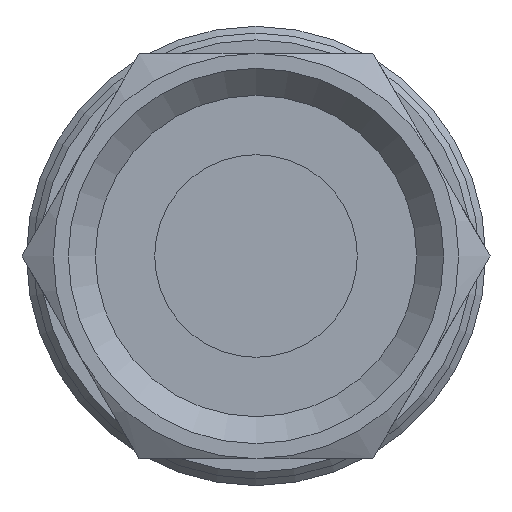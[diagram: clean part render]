
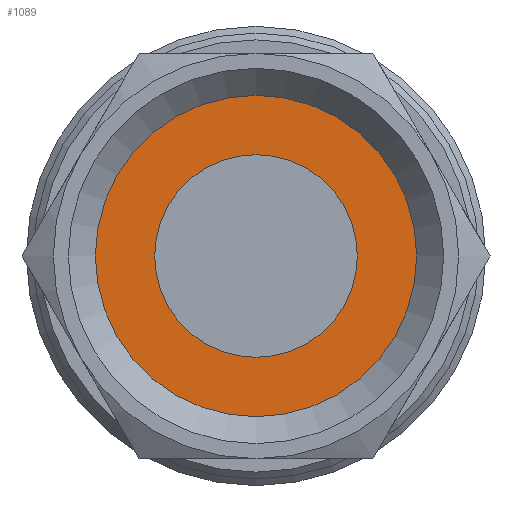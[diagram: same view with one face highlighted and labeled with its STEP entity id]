
A CAD part, front view. The second image highlights one B-rep face of the part: STEP entity #1089.
In plain terms, the highlighted planar face has unit normal (0, -1, 0).
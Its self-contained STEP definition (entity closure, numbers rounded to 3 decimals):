
#21=FACE_BOUND('',#266,.T.);
#125=PLANE('',#1252);
#191=FACE_OUTER_BOUND('',#265,.T.);
#265=EDGE_LOOP('',(#974,#975));
#266=EDGE_LOOP('',(#976,#977));
#337=CIRCLE('',#1231,5.945);
#338=CIRCLE('',#1232,5.945);
#345=CIRCLE('',#1253,3.75);
#346=CIRCLE('',#1254,3.75);
#488=VERTEX_POINT('',#1970);
#489=VERTEX_POINT('',#1972);
#496=VERTEX_POINT('',#2010);
#497=VERTEX_POINT('',#2011);
#641=EDGE_CURVE('',#489,#488,#337,.T.);
#642=EDGE_CURVE('',#488,#489,#338,.T.);
#658=EDGE_CURVE('',#496,#497,#345,.T.);
#659=EDGE_CURVE('',#497,#496,#346,.T.);
#974=ORIENTED_EDGE('',*,*,#641,.T.);
#975=ORIENTED_EDGE('',*,*,#642,.T.);
#976=ORIENTED_EDGE('',*,*,#658,.F.);
#977=ORIENTED_EDGE('',*,*,#659,.F.);
#1089=ADVANCED_FACE('',(#191,#21),#125,.T.);
#1231=AXIS2_PLACEMENT_3D('',#1973,#1523,#1524);
#1232=AXIS2_PLACEMENT_3D('',#1974,#1525,#1526);
#1252=AXIS2_PLACEMENT_3D('',#2009,#1574,#1575);
#1253=AXIS2_PLACEMENT_3D('',#2012,#1576,#1577);
#1254=AXIS2_PLACEMENT_3D('',#2013,#1578,#1579);
#1523=DIRECTION('center_axis',(0.,-1.,0.));
#1524=DIRECTION('ref_axis',(1.,0.,0.));
#1525=DIRECTION('center_axis',(0.,-1.,0.));
#1526=DIRECTION('ref_axis',(1.,0.,0.));
#1574=DIRECTION('center_axis',(0.,-1.,0.));
#1575=DIRECTION('ref_axis',(0.,0.,-1.));
#1576=DIRECTION('center_axis',(0.,-1.,0.));
#1577=DIRECTION('ref_axis',(1.,0.,0.));
#1578=DIRECTION('center_axis',(0.,-1.,0.));
#1579=DIRECTION('ref_axis',(1.,0.,0.));
#1970=CARTESIAN_POINT('',(-5.945,10.5,0.));
#1972=CARTESIAN_POINT('',(5.945,10.5,0.));
#1973=CARTESIAN_POINT('Origin',(0.,10.5,0.));
#1974=CARTESIAN_POINT('Origin',(0.,10.5,0.));
#2009=CARTESIAN_POINT('Origin',(3.75,10.5,0.));
#2010=CARTESIAN_POINT('',(3.75,10.5,0.));
#2011=CARTESIAN_POINT('',(-3.75,10.5,0.));
#2012=CARTESIAN_POINT('Origin',(0.,10.5,0.));
#2013=CARTESIAN_POINT('Origin',(0.,10.5,0.));
